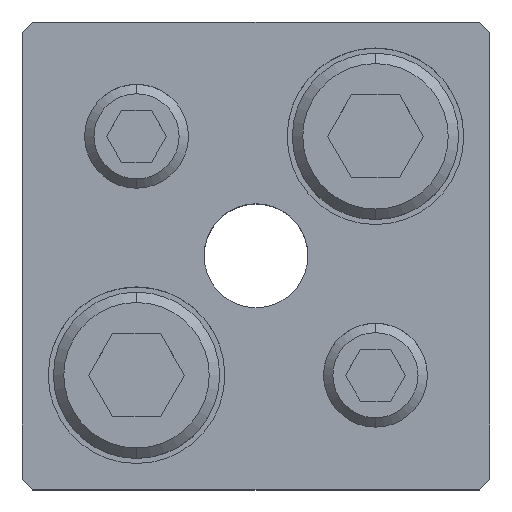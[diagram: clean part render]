
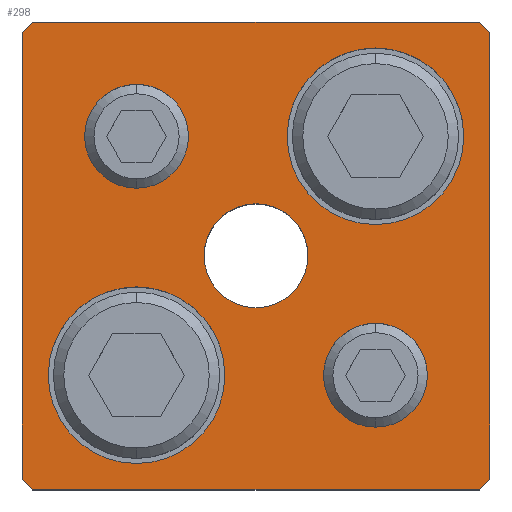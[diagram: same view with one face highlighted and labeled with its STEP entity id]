
A CAD part, top view. The second image highlights one B-rep face of the part: STEP entity #298.
In plain terms, the highlighted planar face has unit normal (0, 0, 1).
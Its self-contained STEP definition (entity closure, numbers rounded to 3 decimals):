
#155=PLANE('',#2455);
#222=FACE_BOUND('',#611,.T.);
#223=FACE_BOUND('',#612,.T.);
#224=FACE_BOUND('',#613,.T.);
#225=FACE_BOUND('',#614,.T.);
#226=FACE_BOUND('',#615,.T.);
#227=FACE_BOUND('',#616,.T.);
#298=ADVANCED_FACE('',(#222,#223,#224,#225,#226,#227),#155,.T.);
#611=EDGE_LOOP('',(#1291,#1292,#1293,#1294,#1295,#1296,#1297,#1298));
#612=EDGE_LOOP('',(#1299,#1300));
#613=EDGE_LOOP('',(#1301,#1302));
#614=EDGE_LOOP('',(#1303,#1304));
#615=EDGE_LOOP('',(#1305,#1306));
#616=EDGE_LOOP('',(#1307,#1308));
#762=LINE('',#3575,#948);
#763=LINE('',#3578,#949);
#764=LINE('',#3580,#950);
#765=LINE('',#3582,#951);
#766=LINE('',#3584,#952);
#767=LINE('',#3586,#953);
#768=LINE('',#3588,#954);
#769=LINE('',#3590,#955);
#948=VECTOR('',#2859,1.);
#949=VECTOR('',#2860,1.);
#950=VECTOR('',#2861,1.);
#951=VECTOR('',#2862,1.);
#952=VECTOR('',#2863,1.);
#953=VECTOR('',#2864,1.);
#954=VECTOR('',#2865,1.);
#955=VECTOR('',#2866,1.);
#1291=ORIENTED_EDGE('',*,*,#2022,.T.);
#1292=ORIENTED_EDGE('',*,*,#2023,.T.);
#1293=ORIENTED_EDGE('',*,*,#2024,.T.);
#1294=ORIENTED_EDGE('',*,*,#2025,.T.);
#1295=ORIENTED_EDGE('',*,*,#2026,.T.);
#1296=ORIENTED_EDGE('',*,*,#2027,.T.);
#1297=ORIENTED_EDGE('',*,*,#2028,.T.);
#1298=ORIENTED_EDGE('',*,*,#2029,.T.);
#1299=ORIENTED_EDGE('',*,*,#2030,.F.);
#1300=ORIENTED_EDGE('',*,*,#2031,.F.);
#1301=ORIENTED_EDGE('',*,*,#2032,.F.);
#1302=ORIENTED_EDGE('',*,*,#2033,.F.);
#1303=ORIENTED_EDGE('',*,*,#2008,.F.);
#1304=ORIENTED_EDGE('',*,*,#2004,.F.);
#1305=ORIENTED_EDGE('',*,*,#2002,.F.);
#1306=ORIENTED_EDGE('',*,*,#1998,.F.);
#1307=ORIENTED_EDGE('',*,*,#2034,.T.);
#1308=ORIENTED_EDGE('',*,*,#2035,.T.);
#1769=VERTEX_POINT('',#3526);
#1770=VERTEX_POINT('',#3527);
#1773=VERTEX_POINT('',#3539);
#1774=VERTEX_POINT('',#3540);
#1785=VERTEX_POINT('',#3576);
#1786=VERTEX_POINT('',#3577);
#1787=VERTEX_POINT('',#3579);
#1788=VERTEX_POINT('',#3581);
#1789=VERTEX_POINT('',#3583);
#1790=VERTEX_POINT('',#3585);
#1791=VERTEX_POINT('',#3587);
#1792=VERTEX_POINT('',#3589);
#1793=VERTEX_POINT('',#3592);
#1794=VERTEX_POINT('',#3593);
#1795=VERTEX_POINT('',#3596);
#1796=VERTEX_POINT('',#3597);
#1797=VERTEX_POINT('',#3600);
#1798=VERTEX_POINT('',#3601);
#1998=EDGE_CURVE('',#1769,#1770,#2267,.T.);
#2002=EDGE_CURVE('',#1770,#1769,#2269,.T.);
#2004=EDGE_CURVE('',#1773,#1774,#2271,.T.);
#2008=EDGE_CURVE('',#1774,#1773,#2273,.T.);
#2022=EDGE_CURVE('',#1785,#1786,#762,.T.);
#2023=EDGE_CURVE('',#1786,#1787,#763,.T.);
#2024=EDGE_CURVE('',#1787,#1788,#764,.T.);
#2025=EDGE_CURVE('',#1788,#1789,#765,.T.);
#2026=EDGE_CURVE('',#1789,#1790,#766,.T.);
#2027=EDGE_CURVE('',#1790,#1791,#767,.T.);
#2028=EDGE_CURVE('',#1791,#1792,#768,.T.);
#2029=EDGE_CURVE('',#1792,#1785,#769,.T.);
#2030=EDGE_CURVE('',#1793,#1794,#2283,.T.);
#2031=EDGE_CURVE('',#1794,#1793,#2284,.T.);
#2032=EDGE_CURVE('',#1795,#1796,#2285,.T.);
#2033=EDGE_CURVE('',#1796,#1795,#2286,.T.);
#2034=EDGE_CURVE('',#1797,#1798,#2287,.T.);
#2035=EDGE_CURVE('',#1798,#1797,#2288,.T.);
#2267=CIRCLE('',#2423,5.);
#2269=CIRCLE('',#2426,5.);
#2271=CIRCLE('',#2430,5.);
#2273=CIRCLE('',#2433,5.);
#2283=CIRCLE('',#2449,8.5);
#2284=CIRCLE('',#2450,8.5);
#2285=CIRCLE('',#2451,8.5);
#2286=CIRCLE('',#2452,8.5);
#2287=CIRCLE('',#2453,5.);
#2288=CIRCLE('',#2454,5.);
#2423=AXIS2_PLACEMENT_3D('',#3525,#2799,#2800);
#2426=AXIS2_PLACEMENT_3D('',#3534,#2807,#2808);
#2430=AXIS2_PLACEMENT_3D('',#3538,#2815,#2816);
#2433=AXIS2_PLACEMENT_3D('',#3547,#2823,#2824);
#2449=AXIS2_PLACEMENT_3D('',#3591,#2867,#2868);
#2450=AXIS2_PLACEMENT_3D('',#3594,#2869,#2870);
#2451=AXIS2_PLACEMENT_3D('',#3595,#2871,#2872);
#2452=AXIS2_PLACEMENT_3D('',#3598,#2873,#2874);
#2453=AXIS2_PLACEMENT_3D('',#3599,#2875,#2876);
#2454=AXIS2_PLACEMENT_3D('',#3602,#2877,#2878);
#2455=AXIS2_PLACEMENT_3D('',#3603,#2879,#2880);
#2799=DIRECTION('',(0.,0.,1.));
#2800=DIRECTION('',(-1.,0.,0.));
#2807=DIRECTION('',(0.,0.,1.));
#2808=DIRECTION('',(1.,0.,0.));
#2815=DIRECTION('',(0.,0.,1.));
#2816=DIRECTION('',(-1.,0.,0.));
#2823=DIRECTION('',(0.,0.,1.));
#2824=DIRECTION('',(1.,0.,0.));
#2859=DIRECTION('',(0.707,0.707,0.));
#2860=DIRECTION('',(0.,1.,0.));
#2861=DIRECTION('',(-0.707,0.707,0.));
#2862=DIRECTION('',(-1.,0.,0.));
#2863=DIRECTION('',(-0.707,-0.707,0.));
#2864=DIRECTION('',(0.,-1.,0.));
#2865=DIRECTION('',(0.707,-0.707,0.));
#2866=DIRECTION('',(1.,0.,0.));
#2867=DIRECTION('',(0.,0.,1.));
#2868=DIRECTION('',(1.,0.,0.));
#2869=DIRECTION('',(0.,0.,1.));
#2870=DIRECTION('',(-1.,0.,0.));
#2871=DIRECTION('',(0.,0.,1.));
#2872=DIRECTION('',(1.,0.,0.));
#2873=DIRECTION('',(0.,0.,1.));
#2874=DIRECTION('',(-1.,0.,0.));
#2875=DIRECTION('',(0.,0.,-1.));
#2876=DIRECTION('',(-1.,0.,0.));
#2877=DIRECTION('',(0.,0.,-1.));
#2878=DIRECTION('',(1.,0.,0.));
#2879=DIRECTION('',(0.,0.,1.));
#2880=DIRECTION('',(-1.,0.,0.));
#3525=CARTESIAN_POINT('',(11.5,-11.5,30.));
#3526=CARTESIAN_POINT('',(11.5,-16.5,30.));
#3527=CARTESIAN_POINT('',(11.5,-6.5,30.));
#3534=CARTESIAN_POINT('',(11.5,-11.5,30.));
#3538=CARTESIAN_POINT('',(-11.5,11.5,30.));
#3539=CARTESIAN_POINT('',(-11.5,6.5,30.));
#3540=CARTESIAN_POINT('',(-11.5,16.5,30.));
#3547=CARTESIAN_POINT('',(-11.5,11.5,30.));
#3575=CARTESIAN_POINT('',(21.5,-22.5,30.));
#3576=CARTESIAN_POINT('',(21.5,-22.5,30.));
#3577=CARTESIAN_POINT('',(22.5,-21.5,30.));
#3578=CARTESIAN_POINT('',(22.5,21.5,30.));
#3579=CARTESIAN_POINT('',(22.5,21.5,30.));
#3580=CARTESIAN_POINT('',(22.5,21.5,30.));
#3581=CARTESIAN_POINT('',(21.5,22.5,30.));
#3582=CARTESIAN_POINT('',(-21.5,22.5,30.));
#3583=CARTESIAN_POINT('',(-21.5,22.5,30.));
#3584=CARTESIAN_POINT('',(-21.5,22.5,30.));
#3585=CARTESIAN_POINT('',(-22.5,21.5,30.));
#3586=CARTESIAN_POINT('',(-22.5,21.5,30.));
#3587=CARTESIAN_POINT('',(-22.5,-21.5,30.));
#3588=CARTESIAN_POINT('',(-22.5,-21.5,30.));
#3589=CARTESIAN_POINT('',(-21.5,-22.5,30.));
#3590=CARTESIAN_POINT('',(-21.5,-22.5,30.));
#3591=CARTESIAN_POINT('',(11.5,11.5,30.));
#3592=CARTESIAN_POINT('',(11.5,20.,30.));
#3593=CARTESIAN_POINT('',(11.5,3.,30.));
#3594=CARTESIAN_POINT('',(11.5,11.5,30.));
#3595=CARTESIAN_POINT('',(-11.5,-11.5,30.));
#3596=CARTESIAN_POINT('',(-11.5,-3.,30.));
#3597=CARTESIAN_POINT('',(-11.5,-20.,30.));
#3598=CARTESIAN_POINT('',(-11.5,-11.5,30.));
#3599=CARTESIAN_POINT('',(0.,0.,30.));
#3600=CARTESIAN_POINT('',(0.,5.,30.));
#3601=CARTESIAN_POINT('',(0.,-5.,30.));
#3602=CARTESIAN_POINT('',(0.,0.,30.));
#3603=CARTESIAN_POINT('',(21.5,-22.5,30.));
